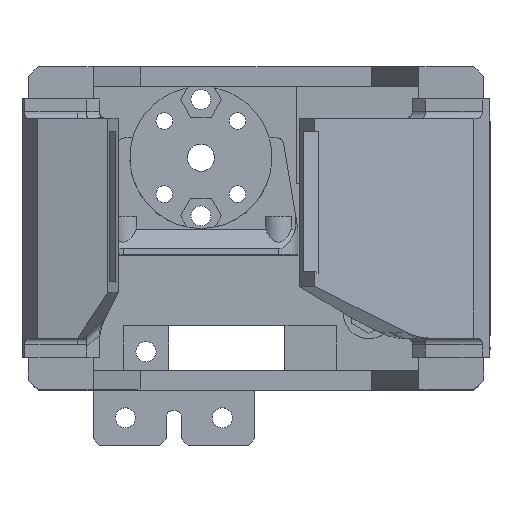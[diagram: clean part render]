
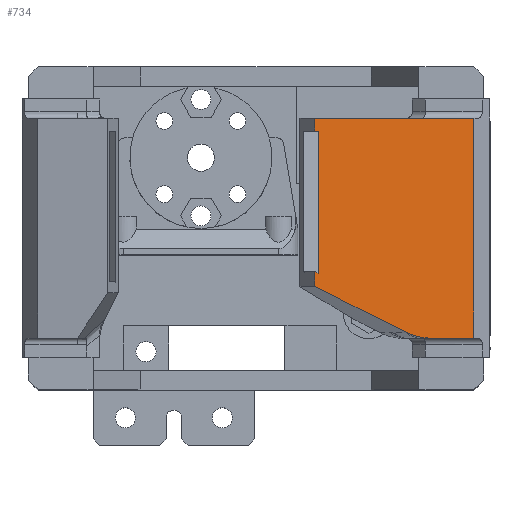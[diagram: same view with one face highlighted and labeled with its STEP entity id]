
A CAD part, top view. The second image highlights one B-rep face of the part: STEP entity #734.
In plain terms, the highlighted planar face has unit normal (0.117, 0, 0.993) as drawn and (0, -0.993, -0.117) by its records, which use the part's own axes.
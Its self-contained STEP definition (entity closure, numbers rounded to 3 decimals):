
#734=ADVANCED_FACE('',(#3871),#3873,.F.);
#3871=FACE_BOUND('',#3872,.T.);
#3872=EDGE_LOOP('',(#8658,#8659,#8660,#8661,#8662,#8663,#8664,#8665,#8666,#8667));
#3873=PLANE('',#3874);
#3874=AXIS2_PLACEMENT_3D('',#3875,#3876,#3877);
#3875=CARTESIAN_POINT('',(34.,-9.,-12.));
#3876=DIRECTION('',(0.,0.993,0.117));
#3877=DIRECTION('',(0.,-0.117,0.993));
#8658=ORIENTED_EDGE('',*,*,#11753,.T.);
#8659=ORIENTED_EDGE('',*,*,#11754,.T.);
#8660=ORIENTED_EDGE('',*,*,#11755,.T.);
#8661=ORIENTED_EDGE('',*,*,#11682,.T.);
#8662=ORIENTED_EDGE('',*,*,#11752,.F.);
#8663=ORIENTED_EDGE('',*,*,#11756,.F.);
#8664=ORIENTED_EDGE('',*,*,#11715,.T.);
#8665=ORIENTED_EDGE('',*,*,#11757,.F.);
#8666=ORIENTED_EDGE('',*,*,#11758,.F.);
#8667=ORIENTED_EDGE('',*,*,#11759,.F.);
#11682=EDGE_CURVE('',#14201,#14199,#14202,.T.);
#11715=EDGE_CURVE('',#14257,#14255,#14258,.T.);
#11752=EDGE_CURVE('',#14316,#14199,#14318,.T.);
#11753=EDGE_CURVE('',#14319,#14320,#14321,.T.);
#11754=EDGE_CURVE('',#14320,#14322,#14323,.T.);
#11755=EDGE_CURVE('',#14322,#14201,#14324,.T.);
#11756=EDGE_CURVE('',#14257,#14316,#14325,.T.);
#11757=EDGE_CURVE('',#14326,#14255,#14327,.T.);
#11758=EDGE_CURVE('',#14328,#14326,#14329,.T.);
#11759=EDGE_CURVE('',#14319,#14328,#14330,.T.);
#14199=VERTEX_POINT('',#19932);
#14201=VERTEX_POINT('',#19936);
#14202=LINE('',#19937,#19938);
#14255=VERTEX_POINT('',#20226);
#14257=VERTEX_POINT('',#20230);
#14258=LINE('',#20231,#20232);
#14316=VERTEX_POINT('',#20553);
#14318=LINE('',#20557,#20558);
#14319=VERTEX_POINT('',#20560);
#14320=VERTEX_POINT('',#20561);
#14321=LINE('',#20562,#20563);
#14322=VERTEX_POINT('',#20565);
#14323=(BOUNDED_CURVE()B_SPLINE_CURVE(3,
(#20566,#20567,#20568,#20569),
.UNSPECIFIED.,.F.,.F.)B_SPLINE_CURVE_WITH_KNOTS((4,4),
(0.,1.),
.UNSPECIFIED.)CURVE()GEOMETRIC_REPRESENTATION_ITEM()RATIONAL_B_SPLINE_CURVE((1.,
0.977,0.977,1.))REPRESENTATION_ITEM(''));
#14324=LINE('',#20570,#20571);
#14325=LINE('',#20573,#20574);
#14326=VERTEX_POINT('',#20576);
#14327=LINE('',#20577,#20578);
#14328=VERTEX_POINT('',#20580);
#14329=LINE('',#20581,#20582);
#14330=LINE('',#20584,#20585);
#19932=CARTESIAN_POINT('',(34.,-9.293,-9.517));
#19936=CARTESIAN_POINT('',(0.,-9.293,-9.517));
#19937=CARTESIAN_POINT('',(0.,-9.293,-9.517));
#19938=VECTOR('',#19939,1.);
#19939=DIRECTION('',(1.,0.,0.));
#20226=CARTESIAN_POINT('',(32.,-12.141,14.599));
#20230=CARTESIAN_POINT('',(32.,-12.2,15.099));
#20231=CARTESIAN_POINT('',(32.,-12.2,15.099));
#20232=VECTOR('',#20233,1.);
#20233=DIRECTION('',(0.,0.117,-0.993));
#20553=CARTESIAN_POINT('',(34.,-12.2,15.099));
#20557=CARTESIAN_POINT('',(34.,-12.2,15.099));
#20558=VECTOR('',#20559,1.);
#20559=DIRECTION('',(0.,0.117,-0.993));
#20560=CARTESIAN_POINT('',(8.,-12.2,15.099));
#20561=CARTESIAN_POINT('',(0.804,-10.512,0.806));
#20562=CARTESIAN_POINT('',(8.,-12.2,15.099));
#20563=VECTOR('',#20564,1.);
#20564=DIRECTION('',(-0.447,0.105,-0.888));
#20565=CARTESIAN_POINT('',(0.,-10.106,-2.634));
#20566=CARTESIAN_POINT('',(0.804,-10.512,0.806));
#20567=CARTESIAN_POINT('',(0.274,-10.388,-0.246));
#20568=CARTESIAN_POINT('',(0.,-10.249,-1.419));
#20569=CARTESIAN_POINT('',(0.,-10.106,-2.634));
#20570=CARTESIAN_POINT('',(0.,-10.106,-2.634));
#20571=VECTOR('',#20572,1.);
#20572=DIRECTION('',(0.,0.117,-0.993));
#20573=CARTESIAN_POINT('',(32.,-12.2,15.099));
#20574=VECTOR('',#20575,1.);
#20575=DIRECTION('',(1.,0.,0.));
#20576=CARTESIAN_POINT('',(10.058,-12.141,14.599));
#20577=CARTESIAN_POINT('',(10.058,-12.141,14.599));
#20578=VECTOR('',#20579,1.);
#20579=DIRECTION('',(1.,0.,0.));
#20580=CARTESIAN_POINT('',(10.309,-12.2,15.099));
#20581=CARTESIAN_POINT('',(10.309,-12.2,15.099));
#20582=VECTOR('',#20583,1.);
#20583=DIRECTION('',(-0.447,0.105,-0.888));
#20584=CARTESIAN_POINT('',(8.,-12.2,15.099));
#20585=VECTOR('',#20586,1.);
#20586=DIRECTION('',(1.,0.,0.));
